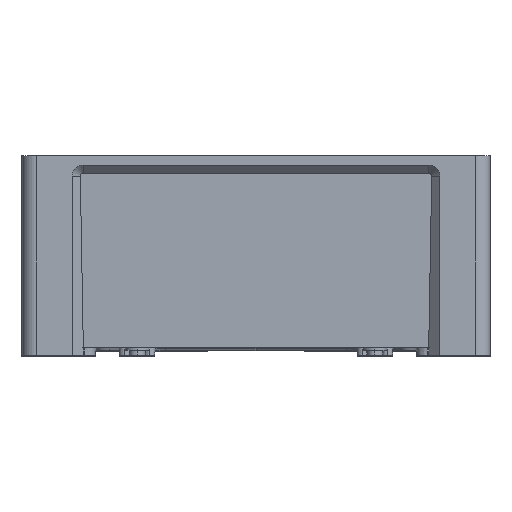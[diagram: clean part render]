
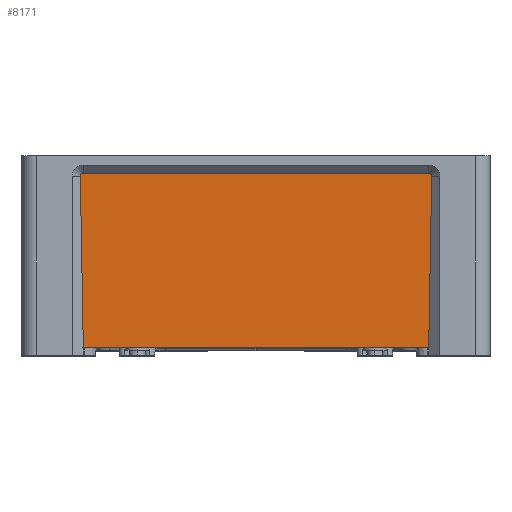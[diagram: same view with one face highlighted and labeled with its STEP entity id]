
A CAD part, top view. The second image highlights one B-rep face of the part: STEP entity #8171.
In plain terms, the highlighted planar face has unit normal (0, -0.018, 1).
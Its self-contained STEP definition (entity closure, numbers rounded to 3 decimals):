
#380 = DIRECTION ( 'NONE',  ( 1., 0., 0. ) ) ;
#381 = VECTOR ( 'NONE', #380, 1000. ) ;
#382 = CARTESIAN_POINT ( 'NONE',  ( -95.5, -78.4, 115.432 ) ) ;
#383 = LINE ( 'NONE', #382, #381 ) ;
#388 = CARTESIAN_POINT ( 'NONE',  ( -70.482, -78.4, 115.432 ) ) ;
#471 = CARTESIAN_POINT ( 'NONE',  ( 70.482, -78.4, 115.432 ) ) ;
#6232 = CARTESIAN_POINT ( 'NONE',  ( -71.707, -8.183, 116.657 ) ) ;
#6233 = LINE ( 'NONE', #6232, #6284 ) ;
#6264 = CARTESIAN_POINT ( 'NONE',  ( -70.55, -7.124, 116.676 ) ) ;
#6265 = CARTESIAN_POINT ( 'NONE',  ( -71.236, -7.124, 116.676 ) ) ;
#6266 = CARTESIAN_POINT ( 'NONE',  ( -71.717, -7.614, 116.667 ) ) ;
#6267 = CARTESIAN_POINT ( 'NONE',  ( -71.705, -8.3, 116.655 ) ) ;
#6268 =( BOUNDED_CURVE ( )  B_SPLINE_CURVE ( 3, ( #6267, #6266, #6265, #6264 ),
 .UNSPECIFIED., .F., .T. ) 
 B_SPLINE_CURVE_WITH_KNOTS ( ( 4, 4 ),
 ( 4.695, 6.283 ),
 .UNSPECIFIED. ) 
 CURVE ( )  GEOMETRIC_REPRESENTATION_ITEM ( )  RATIONAL_B_SPLINE_CURVE ( ( 1., 0.801, 0.801, 1. ) ) 
 REPRESENTATION_ITEM ( '' )  );
#6269 = CARTESIAN_POINT ( 'NONE',  ( -71.705, -8.3, 116.655 ) ) ;
#6270 = DIRECTION ( 'NONE',  ( -0.017, -1., -0.017 ) ) ;
#6271 = VECTOR ( 'NONE', #6270, 1000. ) ;
#6272 = CARTESIAN_POINT ( 'NONE',  ( 71.707, -8.183, 116.657 ) ) ;
#6273 = LINE ( 'NONE', #6272, #6271 ) ;
#6283 = DIRECTION ( 'NONE',  ( 0.017, -1., -0.017 ) ) ;
#6284 = VECTOR ( 'NONE', #6283, 1000. ) ;
#6290 = CARTESIAN_POINT ( 'NONE',  ( 71.705, -8.3, 116.655 ) ) ;
#6291 = CARTESIAN_POINT ( 'NONE',  ( 71.717, -7.614, 116.667 ) ) ;
#6292 = CARTESIAN_POINT ( 'NONE',  ( 71.236, -7.124, 116.676 ) ) ;
#6293 = CARTESIAN_POINT ( 'NONE',  ( 70.55, -7.124, 116.676 ) ) ;
#6294 =( BOUNDED_CURVE ( )  B_SPLINE_CURVE ( 3, ( #6293, #6292, #6291, #6290 ),
 .UNSPECIFIED., .F., .T. ) 
 B_SPLINE_CURVE_WITH_KNOTS ( ( 4, 4 ),
 ( 0., 1.588 ),
 .UNSPECIFIED. ) 
 CURVE ( )  GEOMETRIC_REPRESENTATION_ITEM ( )  RATIONAL_B_SPLINE_CURVE ( ( 1., 0.801, 0.801, 1. ) ) 
 REPRESENTATION_ITEM ( '' )  );
#6295 = CARTESIAN_POINT ( 'NONE',  ( 71.705, -8.3, 116.655 ) ) ;
#6296 = CARTESIAN_POINT ( 'NONE',  ( 70.55, -7.124, 116.676 ) ) ;
#6297 = DIRECTION ( 'NONE',  ( 1., 0., 0. ) ) ;
#6298 = VECTOR ( 'NONE', #6297, 1000. ) ;
#6299 = CARTESIAN_POINT ( 'NONE',  ( -70.55, -7.124, 116.676 ) ) ;
#6300 = LINE ( 'NONE', #6299, #6298 ) ;
#6301 = CARTESIAN_POINT ( 'NONE',  ( -70.55, -7.124, 116.676 ) ) ;
#8171 = ADVANCED_FACE ( 'NONE', ( #16953 ), #16952, .T. ) ;
#10641 = VERTEX_POINT ( 'NONE', #388 ) ;
#10645 = EDGE_CURVE ( 'NONE', #10641, #10713, #383, .T. ) ;
#10713 = VERTEX_POINT ( 'NONE', #471 ) ;
#15147 = EDGE_CURVE ( 'NONE', #16974, #10641, #6233, .T. ) ;
#16073 = EDGE_CURVE ( 'NONE', #19296, #10713, #6273, .T. ) ;
#16148 = ORIENTED_EDGE ( 'NONE', *, *, #15147, .T. ) ;
#16584 = ORIENTED_EDGE ( 'NONE', *, *, #10645, .T. ) ;
#16585 = ORIENTED_EDGE ( 'NONE', *, *, #16073, .F. ) ;
#16948 = DIRECTION ( 'NONE',  ( 0., -1., -0.017 ) ) ;
#16949 = DIRECTION ( 'NONE',  ( 0., -0.017, 1. ) ) ;
#16950 = CARTESIAN_POINT ( 'NONE',  ( -95.5, 0., 116.8 ) ) ;
#16951 = AXIS2_PLACEMENT_3D ( 'NONE', #16950, #16949, #16948 ) ;
#16952 = PLANE ( 'NONE',  #16951 ) ;
#16953 = FACE_OUTER_BOUND ( 'NONE', #17076, .T. ) ;
#16974 = VERTEX_POINT ( 'NONE', #6269 ) ;
#17076 = EDGE_LOOP ( 'NONE', ( #16584, #16585, #19211, #19012, #17338, #16148 ) ) ;
#17338 = ORIENTED_EDGE ( 'NONE', *, *, #17339, .F. ) ;
#17339 = EDGE_CURVE ( 'NONE', #16974, #17861, #6268, .T. ) ;
#17861 = VERTEX_POINT ( 'NONE', #6301 ) ;
#18576 = EDGE_CURVE ( 'NONE', #17861, #19093, #6300, .T. ) ;
#19012 = ORIENTED_EDGE ( 'NONE', *, *, #18576, .F. ) ;
#19093 = VERTEX_POINT ( 'NONE', #6296 ) ;
#19177 = EDGE_CURVE ( 'NONE', #19093, #19296, #6294, .T. ) ;
#19211 = ORIENTED_EDGE ( 'NONE', *, *, #19177, .F. ) ;
#19296 = VERTEX_POINT ( 'NONE', #6295 ) ;
